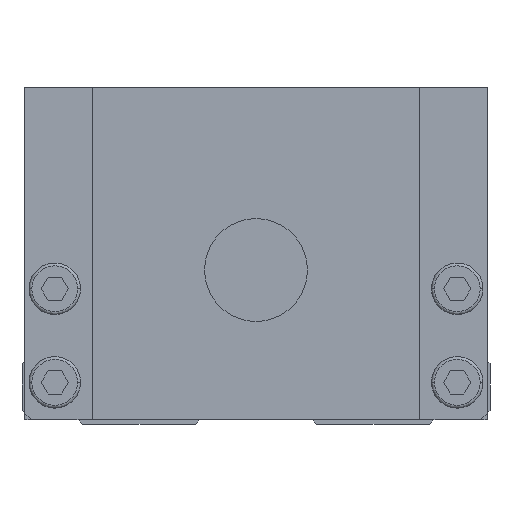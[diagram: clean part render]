
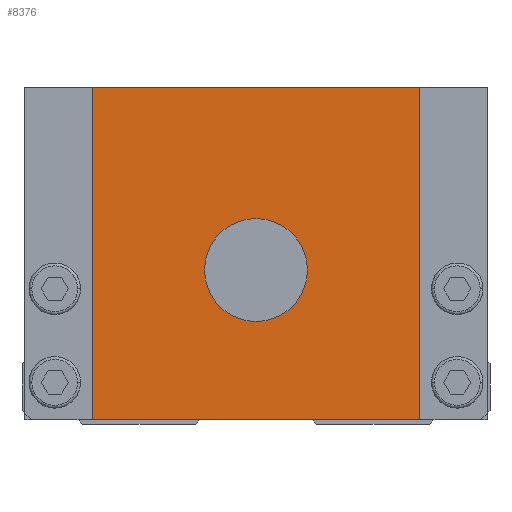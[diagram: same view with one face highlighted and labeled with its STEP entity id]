
A CAD part, front view. The second image highlights one B-rep face of the part: STEP entity #8376.
In plain terms, the highlighted planar face has unit normal (0, -1, 0).
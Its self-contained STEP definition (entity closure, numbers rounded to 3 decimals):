
#3716=EDGE_CURVE('',#4350,#7814,#10295,.T.);
#4212=VERTEX_POINT('',#10840);
#4350=VERTEX_POINT('',#10994);
#4580=VERTEX_POINT('',#11253);
#5016=EDGE_CURVE('',#7228,#7872,#11728,.T.);
#6456=EDGE_CURVE('',#7228,#4580,#13326,.T.);
#7228=VERTEX_POINT('',#14192);
#7814=VERTEX_POINT('',#14850);
#7872=VERTEX_POINT('',#14916);
#8376=ADVANCED_FACE('',(#15480,#15481),#15482,.F.);
#8430=EDGE_CURVE('',#4580,#4212,#15542,.T.);
#9050=EDGE_CURVE('',#7814,#4350,#16241,.T.);
#9406=EDGE_CURVE('',#4212,#7872,#16639,.T.);
#10295=CIRCLE('',#17728,5.5);
#10840=CARTESIAN_POINT('',(17.5,0.0,0.5));
#10994=CARTESIAN_POINT('',(-5.5,0.0,16.5));
#11253=CARTESIAN_POINT('',(17.5,0.0,36.0));
#11728=LINE('',#19776,#19777);
#13326=LINE('',#22088,#22089);
#14192=CARTESIAN_POINT('',(-17.5,0.0,36.0));
#14850=CARTESIAN_POINT('',(5.5,0.0,16.5));
#14916=CARTESIAN_POINT('',(-17.5,0.0,0.5));
#15480=FACE_BOUND('',#25118,.T.);
#15481=FACE_OUTER_BOUND('',#25119,.T.);
#15482=PLANE('',#25120);
#15542=LINE('',#25206,#25207);
#16241=CIRCLE('',#26194,5.5);
#16639=LINE('',#26893,#26894);
#17728=AXIS2_PLACEMENT_3D('',#28120,#28121,#28122);
#19776=CARTESIAN_POINT('',(-17.5,0.0,18.25));
#19777=VECTOR('',#29709,1.0);
#22088=CARTESIAN_POINT('',(0.0,0.0,36.0));
#22089=VECTOR('',#31509,1.0);
#25118=EDGE_LOOP('',(#34132,#34133));
#25119=EDGE_LOOP('',(#34134,#34135,#34136,#34137));
#25120=AXIS2_PLACEMENT_3D('',#34138,#34139,#34140);
#25206=CARTESIAN_POINT('',(17.5,0.0,18.25));
#25207=VECTOR('',#34215,1.0);
#26194=AXIS2_PLACEMENT_3D('',#35084,#35085,#35086);
#26893=CARTESIAN_POINT('',(0.0,0.0,0.5));
#26894=VECTOR('',#35491,1.0);
#28120=CARTESIAN_POINT('',(0.0,0.0,16.5));
#28121=DIRECTION('',(-0.0,1.0,0.0));
#28122=DIRECTION('',(1.0,0.0,0.0));
#29709=DIRECTION('',(0.0,0.0,-1.0));
#31509=DIRECTION('',(1.0,0.0,0.0));
#34132=ORIENTED_EDGE('',*,*,#9050,.T.);
#34133=ORIENTED_EDGE('',*,*,#3716,.T.);
#34134=ORIENTED_EDGE('',*,*,#5016,.T.);
#34135=ORIENTED_EDGE('',*,*,#9406,.F.);
#34136=ORIENTED_EDGE('',*,*,#8430,.F.);
#34137=ORIENTED_EDGE('',*,*,#6456,.F.);
#34138=CARTESIAN_POINT('',(0.0,0.0,18.25));
#34139=DIRECTION('',(0.0,1.0,0.0));
#34140=DIRECTION('',(0.0,0.0,1.0));
#34215=DIRECTION('',(0.0,0.0,-1.0));
#35084=CARTESIAN_POINT('',(0.0,0.0,16.5));
#35085=DIRECTION('',(-0.0,1.0,0.0));
#35086=DIRECTION('',(1.0,0.0,0.0));
#35491=DIRECTION('',(-1.0,0.0,0.0));
